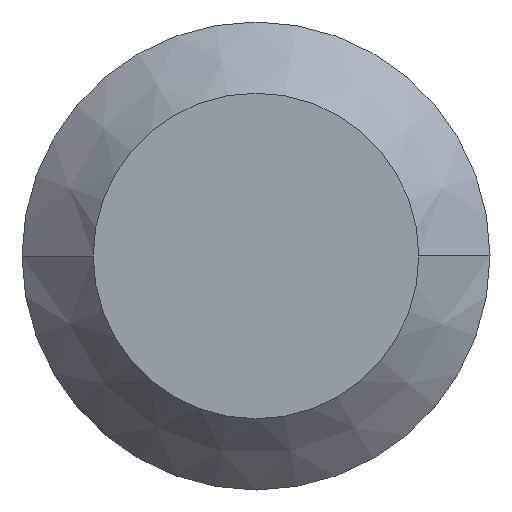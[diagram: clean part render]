
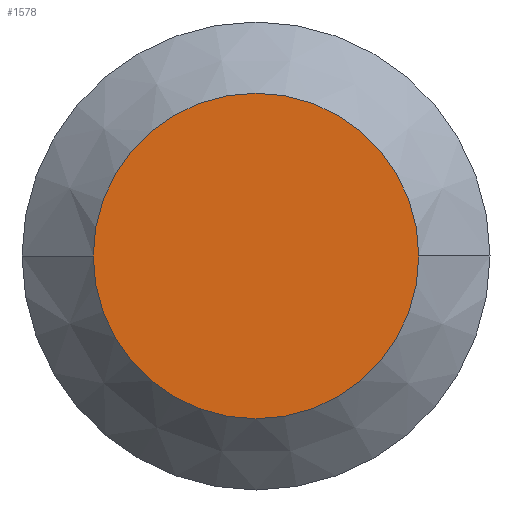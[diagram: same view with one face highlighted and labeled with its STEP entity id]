
A CAD part, front view. The second image highlights one B-rep face of the part: STEP entity #1578.
In plain terms, the highlighted planar face has unit normal (0, -1, 0).
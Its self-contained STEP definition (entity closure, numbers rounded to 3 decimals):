
#6 = EDGE_LOOP ( 'NONE', ( #1783, #24 ) ) ;
#24 = ORIENTED_EDGE ( 'NONE', *, *, #1063, .F. ) ;
#81 = VERTEX_POINT ( 'NONE', #1104 ) ;
#185 = VERTEX_POINT ( 'NONE', #1659 ) ;
#260 = CIRCLE ( 'NONE', #290, 8. ) ;
#290 = AXIS2_PLACEMENT_3D ( 'NONE', #987, #840, #993 ) ;
#442 = CARTESIAN_POINT ( 'NONE',  ( 0., 0., 0. ) ) ;
#780 = CARTESIAN_POINT ( 'NONE',  ( -8., 0., 0. ) ) ;
#840 = DIRECTION ( 'NONE',  ( 0., 1., 0. ) ) ;
#987 = CARTESIAN_POINT ( 'NONE',  ( 0., 0., 0. ) ) ;
#993 = DIRECTION ( 'NONE',  ( -1., 0., 0. ) ) ;
#1063 = EDGE_CURVE ( 'NONE', #81, #185, #260, .T. ) ;
#1065 = DIRECTION ( 'NONE',  ( 0., -1., 0. ) ) ;
#1104 = CARTESIAN_POINT ( 'NONE',  ( 8., 0., 0. ) ) ;
#1180 = AXIS2_PLACEMENT_3D ( 'NONE', #780, #1065, #1261 ) ;
#1183 = DIRECTION ( 'NONE',  ( 0., 1., 0. ) ) ;
#1238 = CIRCLE ( 'NONE', #1869, 8. ) ;
#1261 = DIRECTION ( 'NONE',  ( 1., 0., 0. ) ) ;
#1280 = FACE_OUTER_BOUND ( 'NONE', #6, .T. ) ;
#1421 = DIRECTION ( 'NONE',  ( -1., 0., 0. ) ) ;
#1578 = ADVANCED_FACE ( 'NONE', ( #1280 ), #1980, .T. ) ;
#1655 = EDGE_CURVE ( 'NONE', #185, #81, #1238, .T. ) ;
#1659 = CARTESIAN_POINT ( 'NONE',  ( -8., 0., 0. ) ) ;
#1783 = ORIENTED_EDGE ( 'NONE', *, *, #1655, .F. ) ;
#1869 = AXIS2_PLACEMENT_3D ( 'NONE', #442, #1183, #1421 ) ;
#1980 = PLANE ( 'NONE',  #1180 ) ;
